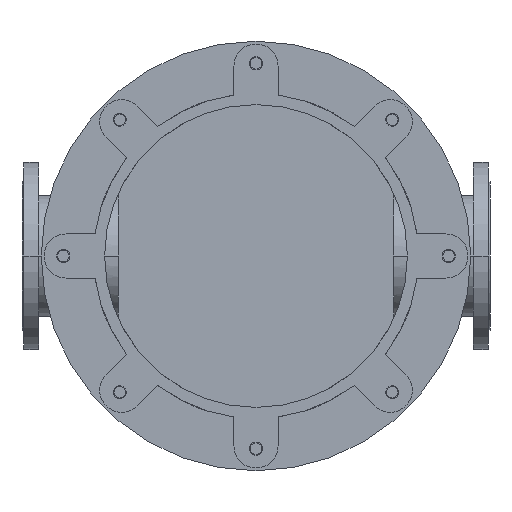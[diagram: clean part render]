
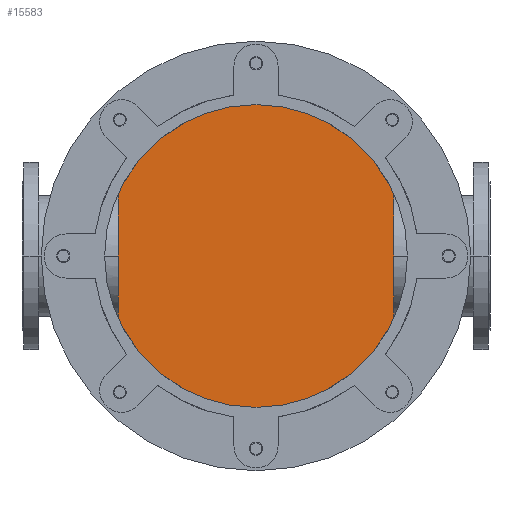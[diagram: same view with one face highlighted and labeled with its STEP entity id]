
A CAD part, front view. The second image highlights one B-rep face of the part: STEP entity #15583.
In plain terms, the highlighted planar face has unit normal (0, -1, 0).
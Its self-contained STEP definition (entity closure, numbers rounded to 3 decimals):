
#3893=CARTESIAN_POINT('',(0.,875.,0.));
#3894=DIRECTION('',(0.,-1.,0.));
#3895=DIRECTION('',(0.,0.,-1.));
#3896=AXIS2_PLACEMENT_3D('',#3893,#3894,#3895);
#4040=CARTESIAN_POINT('',(0.,875.,0.));
#4041=DIRECTION('',(0.,-1.,0.));
#4042=DIRECTION('',(0.,0.,1.));
#4043=AXIS2_PLACEMENT_3D('',#4040,#4041,#4042);
#9065=CARTESIAN_POINT('',(0.,875.,290.));
#9066=CARTESIAN_POINT('',(0.,875.,-290.));
#9067=VERTEX_POINT('',#9065);
#9068=VERTEX_POINT('',#9066);
#15574=CARTESIAN_POINT('',(0.,875.,0.));
#15575=DIRECTION('',(0.,1.,0.));
#15576=DIRECTION('',(0.,0.,-1.));
#15577=AXIS2_PLACEMENT_3D('',#15574,#15575,#15576);
#15578=PLANE('',#15577);
#15579=ORIENTED_EDGE('',*,*,#15560,.F.);
#15580=ORIENTED_EDGE('',*,*,#15459,.F.);
#15581=EDGE_LOOP('',(#15579,#15580));
#15582=FACE_OUTER_BOUND('',#15581,.F.);
#15583=ADVANCED_FACE('',(#15582),#15578,.F.);
#3897=CIRCLE('',#3896,290.);
#4044=CIRCLE('',#4043,290.);
#15459=EDGE_CURVE('',#9068,#9067,#3897,.T.);
#15560=EDGE_CURVE('',#9067,#9068,#4044,.T.);
